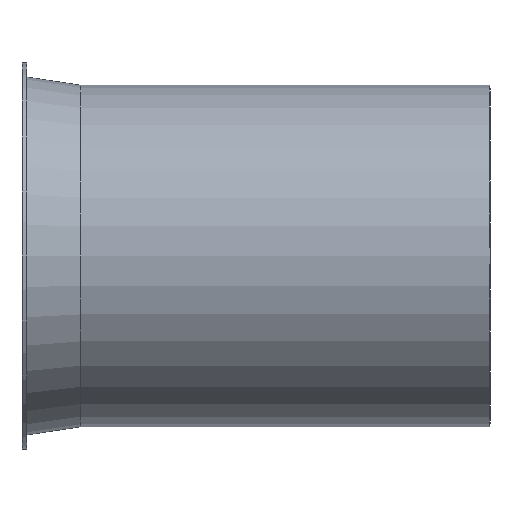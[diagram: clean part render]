
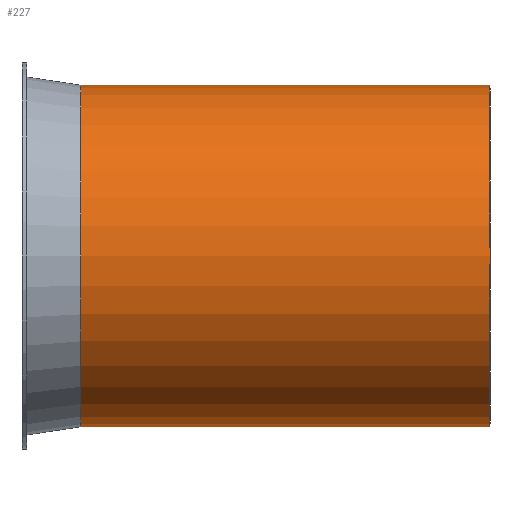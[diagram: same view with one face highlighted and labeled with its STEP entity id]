
A CAD part, front view. The second image highlights one B-rep face of the part: STEP entity #227.
In plain terms, the highlighted cylindrical face has radius 73 mm (diameter 146 mm), a full revolution.
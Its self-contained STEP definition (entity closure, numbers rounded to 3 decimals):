
#132=CARTESIAN_POINT('',(-2.081,46.334,0.0));
#133=VERTEX_POINT('',#132);
#134=CARTESIAN_POINT('',(-2.081,119.334,0.0));
#135=DIRECTION('',(-1.0,0.0,0.0));
#136=DIRECTION('',(0.0,-1.0,0.0));
#137=AXIS2_PLACEMENT_3D('',#134,#135,#136);
#138=CIRCLE('',#137,73.);
#139=EDGE_CURVE('',#133,#133,#138,.T.);
#201=CARTESIAN_POINT('',(172.919,46.334,0.0));
#202=VERTEX_POINT('',#201);
#203=CARTESIAN_POINT('',(172.919,119.334,0.0));
#204=DIRECTION('',(-1.0,0.0,0.0));
#205=DIRECTION('',(0.0,-1.0,0.0));
#206=AXIS2_PLACEMENT_3D('',#203,#204,#205);
#207=CIRCLE('',#206,73.);
#208=EDGE_CURVE('',#202,#202,#207,.T.);
#216=CARTESIAN_POINT('',(85.419,119.334,0.0));
#217=DIRECTION('',(-1.0,0.,0.0));
#218=DIRECTION('',(0.0,-1.0,0.0));
#219=AXIS2_PLACEMENT_3D('',#216,#217,#218);
#220=CYLINDRICAL_SURFACE('',#219,73.);
#221=ORIENTED_EDGE('',*,*,#139,.F.);
#222=EDGE_LOOP('',(#221));
#223=FACE_OUTER_BOUND('',#222,.T.);
#224=ORIENTED_EDGE('',*,*,#208,.T.);
#225=EDGE_LOOP('',(#224));
#226=FACE_BOUND('',#225,.T.);
#227=ADVANCED_FACE('',(#223,#226),#220,.T.);
